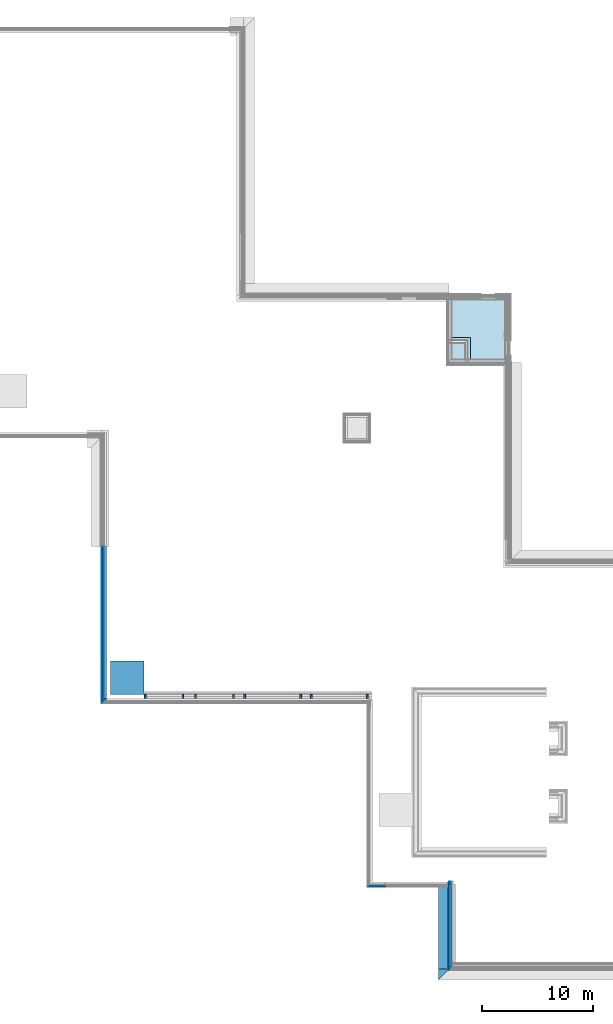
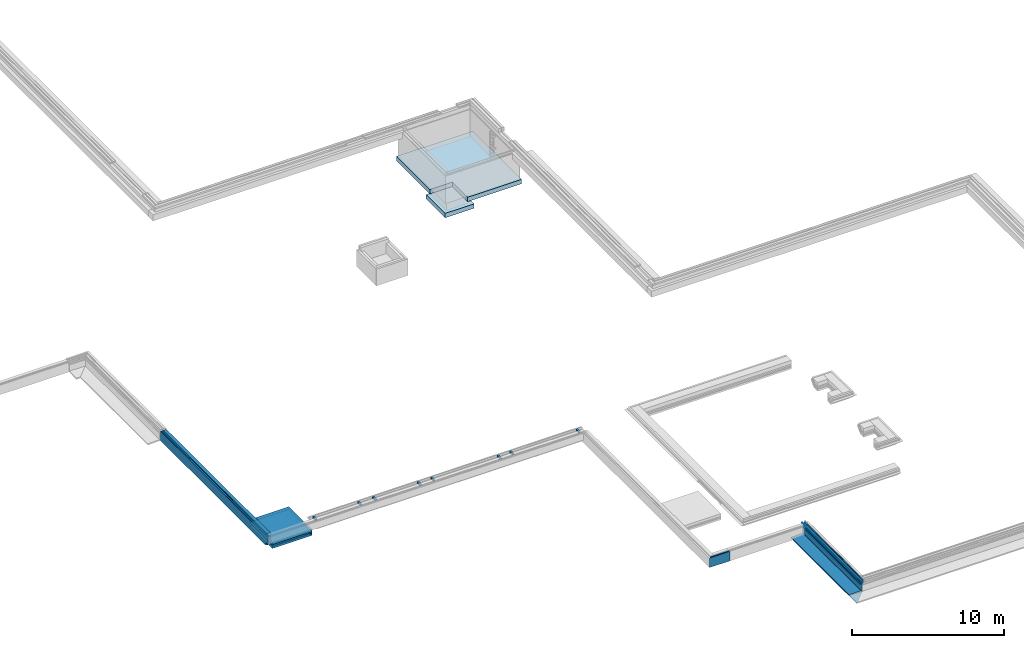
# One storey, part 1 of 17: 25 building element parts, 8 walls, 2 slabs, 5 elements without a shape of their own.
"""IFC2X3 building model written with IfcOpenShell, lengths in millimetres."""

from ifc_helpers import new_model, entity, si_unit, converted_unit, derived_unit, money_unit, direction, frame, origin_with_axes, place, context, subcontext, project, spatial, faceted_brep, material, type_object, element, aggregate, save


model = new_model("IFC2X3")

# Units and contexts
model_context = context("Model", 3, precision=0.01, world=origin_with_axes(), true_north=direction((0.0, 1.0)))
body_context = subcontext(model_context, "Body", "Model", "MODEL_VIEW")
ifc_project = project(units=[si_unit("LENGTHUNIT", "METRE", prefix="MILLI"), si_unit("AREAUNIT", "SQUARE_METRE"), si_unit("VOLUMEUNIT", "CUBIC_METRE"), converted_unit("PLANEANGLEUNIT", "DEGREE", entity("IfcPlaneAngleMeasure", 0.0174532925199), si_unit("PLANEANGLEUNIT", "RADIAN"), dimensions=[0, 0, 0, 0, 0, 0, 0]), money_unit("EUR"), converted_unit("TIMEUNIT", "Year", entity("IfcTimeMeasure", 31556926.0), si_unit("TIMEUNIT", "SECOND"), dimensions=[0, 0, 1, 0, 0, 0, 0]), si_unit("MASSUNIT", "GRAM", prefix="KILO"), si_unit("THERMODYNAMICTEMPERATUREUNIT", "DEGREE_CELSIUS"), si_unit("LUMINOUSINTENSITYUNIT", "LUMEN"), si_unit("ENERGYUNIT", "JOULE", prefix="MEGA"), derived_unit("THERMALCONDUCTANCEUNIT", [(si_unit("POWERUNIT", "WATT"), 1), (si_unit("LENGTHUNIT", "METRE"), -1), (si_unit("THERMODYNAMICTEMPERATUREUNIT", "KELVIN"), -1)]), derived_unit("SPECIFICHEATCAPACITYUNIT", [(si_unit("ENERGYUNIT", "JOULE"), 1), (si_unit("MASSUNIT", "GRAM", prefix="KILO"), -1), (si_unit("THERMODYNAMICTEMPERATUREUNIT", "KELVIN"), -1)]), derived_unit("MASSDENSITYUNIT", [(si_unit("MASSUNIT", "GRAM", prefix="KILO"), 1), (si_unit("VOLUMEUNIT", "CUBIC_METRE"), -1)])], contexts=[model_context])

# Site, building, storey
site_placement = place(None, origin_with_axes())
site = spatial("IfcSite", under=ifc_project, at=site_placement, Name="Kolde pst 67a", CompositionType="ELEMENT")
building_placement = place(site_placement, origin_with_axes())
building = spatial("IfcBuilding", under=site, at=building_placement, Name="Riigigümnaasium", CompositionType="ELEMENT")
storey_placement = place(building_placement, frame((0.0, 0.0, -1500.0), z_axis=(0.0, 0.0, 1.0), x_axis=(1.0, 0.0, 0.0)))
storey = spatial("IfcBuildingStorey", under=building, at=storey_placement, Name="Vundament", CompositionType="ELEMENT", Elevation=-1500.0)

# Slabs
ifc_material_1 = material(Name="_KANDETARIND - monoliitne raudbetoonplaat")
slab_type_1 = type_object("IfcSlabType", Name="_KANDETARIND - monoliitne raudbetoonplaat 350", PredefinedType="NOTDEFINED")
slab_1_placement = place(storey_placement, frame((54870.0567695, 60689.9808339, -1065.2), z_axis=(0.0, 0.0, 1.0), x_axis=(1.0, 0.0, 0.0)))
element("IfcSlab", 1, at=slab_1_placement, inside=storey, type_object=slab_type_1, material=ifc_material_1, Name="Põrand pinnasel", PredefinedType="NOTDEFINED", context=body_context, shape_type="Brep", body=[
    faceted_brep([(0.0, -4419.79043204, 0.0), (246.925306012, -4419.79043204, 0.0), (246.925306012, -4416.98077557, 0.0), (1699.95743312, -4416.98077557, 0.0), (1702.95743312, -4416.98077557, 0.0), (1702.95743312, -5919.98077557, 0.0), (1700.00000012, -5919.98077557, 0.0), (1700.00000012, -6419.98077559, 0.0), (5815.32964271, -6419.98077559, 0.0), (5815.32964271, -4422.98078845, 0.0), (5815.7673606, -4422.98078845, 0.0), (5815.7673606, 0.0, 0.0), (0.0, 0.0, 0.0), (0.0, -4419.79043204, -350.0), (246.925306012, -4419.79043204, -350.0), (246.925306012, -4416.98077557, -350.0), (1699.95743312, -4416.98077557, -350.0), (1702.95743312, -4416.98077557, -350.0), (1702.95743312, -5919.98077557, -350.0), (1700.00000012, -5919.98077557, -350.0), (1700.00000012, -6419.98077559, -350.0), (5815.32964271, -6419.98077559, -350.0), (5815.32964271, -4422.98078845, -350.0), (5815.7673606, -4422.98078845, -350.0), (5815.7673606, 0.0, -350.0), (0.0, 0.0, -350.0)], [[[0, 1, 2, 3, 4, 5, 6, 7, 8, 9, 10, 11, 12]], [[13, 14, 1, 0]], [[15, 2, 1, 14]], [[15, 16, 3, 2]], [[4, 3, 16, 17]], [[18, 5, 4, 17]], [[19, 6, 5, 18]], [[7, 6, 19, 20]], [[8, 7, 20, 21]], [[9, 8, 21, 22]], [[10, 9, 22, 23]], [[11, 10, 23, 24]], [[12, 11, 24, 25]], [[0, 12, 25, 13]], [[16, 15, 14, 13, 25, 24, 23, 22, 21, 20, 19, 18, 17]]]),
])
slab_2_placement = place(storey_placement, frame((54870.0142027, 54270.0, -1765.2), z_axis=(0.0, 0.0, 1.0), x_axis=(1.0, 0.0, 0.0)))
element("IfcSlab", 2, at=slab_2_placement, inside=storey, type_object=slab_type_1, material=ifc_material_1, Name="Põrand pinnasel", PredefinedType="NOTDEFINED", context=body_context, shape_type="Brep", body=[
    faceted_brep([(0.0, 0.0, 0.0), (0.0, 0.0, -350.0), (2198.17536675, 0.0, -350.0), (2198.17536675, 0.0, 0.0), (0.0, 2498.19638729, 0.0), (0.0, 2498.19638729, -350.0), (2198.17536675, 2498.19638729, -350.0), (2198.17536675, 2498.19638729, 0.0)], [[[0, 1, 2, 3]], [[4, 5, 1, 0]], [[2, 1, 5, 6]], [[3, 2, 6, 7]], [[4, 0, 3, 7]], [[7, 6, 5, 4]]]),
])

# Walls
ifc_material_2 = material(Name="_KANDETARIND - monteeritav raudbetoon vastavalt EK osale")
wall_type_1 = type_object("IfcWallType", Name="_KANDETARIND - monteeritav raudbetoon vastavalt EK osale 150", PredefinedType="NOTDEFINED")
wall_1_placement = place(storey_placement, frame((47677.00036, 24260.0041147, 1269.90000366), z_axis=(0.0, 0.0, 1.0), x_axis=(1.14108152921e-05, 0.999999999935, 0.0)))
element("IfcWall", 3, at=wall_1_placement, inside=storey, type_object=wall_type_1, material=ifc_material_2, Name="Vundament", context=body_context, shape_type="Brep", body=[
    faceted_brep([(339.69805621, -150.0, 0.0), (339.69805621, -150.0, 130.000015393), (340.266281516, -150.0, 130.000015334), (340.266281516, -150.0, 130.099996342), (0.0, -150.0, 130.099996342), (0.0, -150.0, 0.0), (339.696344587, 0.0, 0.0), (339.696344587, 0.0, 130.000015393), (340.266281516, 0.0, 130.000015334), (340.266281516, 0.0, 130.099996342), (0.0, 0.0, 130.099996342), (0.0, 0.0, 0.0)], [[[0, 1, 2, 3, 4, 5]], [[6, 7, 1, 0]], [[7, 8, 2, 1]], [[3, 2, 8, 9]], [[10, 4, 3, 9]], [[11, 5, 4, 10]], [[11, 6, 0, 5]], [[8, 7, 6, 11, 10, 9]]]),
])
wall_2_placement = place(storey_placement, frame((31207.007678, 24600.2703962, 1269.90000366), z_axis=(0.0, 0.0, 1.0), x_axis=(0.0, -1.0, 0.0)))
element("IfcWall", 4, at=wall_2_placement, inside=storey, type_object=wall_type_1, material=ifc_material_2, Name="Vundament", context=body_context, shape_type="Brep", body=[
    faceted_brep([(0.569936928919, 0.0, 0.0), (0.569936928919, 0.0, 130.000015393), (0.0, 0.0, 130.000015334), (0.0, 0.0, 130.099996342), (350.332839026, 0.0, 130.099996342), (350.332839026, 0.0, 0.0), (0.569936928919, -150.0, 0.0), (0.569936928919, -150.0, 130.000015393), (0.0, -150.0, 130.000015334), (0.0, -150.0, 130.099996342), (350.331127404, -150.0, 130.099996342), (350.331127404, -150.0, 0.0)], [[[0, 1, 2, 3, 4, 5]], [[6, 7, 1, 0]], [[7, 8, 2, 1]], [[3, 2, 8, 9]], [[9, 10, 4, 3]], [[5, 4, 10, 11]], [[11, 6, 0, 5]], [[8, 7, 6, 11, 10, 9]]]),
])
wall_3_placement = place(storey_placement, frame((32192.9978809, 24600.2703962, 1269.90000366), z_axis=(0.0, 0.0, 1.0), x_axis=(0.0, -1.0, 0.0)))
element("IfcWall", 5, at=wall_3_placement, inside=storey, type_object=wall_type_1, material=ifc_material_2, Name="Vundament", context=body_context, shape_type="Brep", body=[
    faceted_brep([(0.569936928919, 150.0, 0.0), (0.569936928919, 150.0, 130.000015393), (0.0, 150.0, 130.000015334), (0.0, 150.0, 130.099996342), (350.345801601, 150.0, 130.099996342), (350.345801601, 150.0, 0.0), (0.569936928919, 0.0, 0.0), (0.569936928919, 0.0, 130.000015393), (0.0, 0.0, 130.000015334), (0.0, 0.0, 130.099996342), (350.344089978, 0.0, 130.099996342), (350.344089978, 0.0, 0.0)], [[[0, 1, 2, 3, 4, 5]], [[6, 7, 1, 0]], [[7, 8, 2, 1]], [[3, 2, 8, 9]], [[9, 10, 4, 3]], [[10, 11, 5, 4]], [[11, 6, 0, 5]], [[8, 7, 6, 11, 10, 9]]]),
])
wall_4_placement = place(storey_placement, frame((36622.9943314, 24600.2703962, 1269.90000366), z_axis=(0.0, 0.0, 1.0), x_axis=(0.0, -1.0, 0.0)))
element("IfcWall", 6, at=wall_4_placement, inside=storey, type_object=wall_type_1, material=ifc_material_2, Name="Vundament", context=body_context, shape_type="Brep", body=[
    faceted_brep([(0.569936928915, 150.0, 0.0), (0.569936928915, 150.0, 130.000015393), (0.0, 150.0, 130.000015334), (0.0, 150.0, 130.099996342), (350.396351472, 150.0, 130.099996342), (350.396351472, 150.0, 0.0), (0.569936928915, 0.0, 0.0), (0.569936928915, 0.0, 130.000015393), (0.0, 0.0, 130.000015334), (0.0, 0.0, 130.099996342), (350.394639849, 0.0, 130.099996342), (350.394639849, 0.0, 0.0)], [[[0, 1, 2, 3, 4, 5]], [[6, 7, 1, 0]], [[7, 8, 2, 1]], [[3, 2, 8, 9]], [[9, 10, 4, 3]], [[10, 11, 5, 4]], [[11, 6, 0, 5]], [[8, 7, 6, 11, 10, 9]]]),
])
wall_5_placement = place(storey_placement, frame((42620.9943314, 24600.2703962, 1269.90000366), z_axis=(0.0, 0.0, 1.0), x_axis=(0.0, -1.0, 0.0)))
element("IfcWall", 7, at=wall_5_placement, inside=storey, type_object=wall_type_1, material=ifc_material_2, Name="Vundament", context=body_context, shape_type="Brep", body=[
    faceted_brep([(0.569936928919, 150.0, 0.0), (0.569936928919, 150.0, 130.000015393), (0.0, 150.0, 130.000015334), (0.0, 150.0, 130.099996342), (350.464793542, 150.0, 130.099996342), (350.464793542, 150.0, 0.0), (0.569936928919, 0.0, 0.0), (0.569936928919, 0.0, 130.000015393), (0.0, 0.0, 130.000015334), (0.0, 0.0, 130.099996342), (350.463081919, 0.0, 130.099996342), (350.463081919, 0.0, 0.0)], [[[0, 1, 2, 3, 4, 5]], [[6, 7, 1, 0]], [[7, 8, 2, 1]], [[3, 2, 8, 9]], [[9, 10, 4, 3]], [[10, 11, 5, 4]], [[11, 6, 0, 5]], [[8, 7, 6, 11, 10, 9]]]),
])
wall_6_placement = place(storey_placement, frame((41827.0041286, 24600.2703962, 1269.90000366), z_axis=(0.0, 0.0, 1.0), x_axis=(0.0, -1.0, 0.0)))
element("IfcWall", 8, at=wall_6_placement, inside=storey, type_object=wall_type_1, material=ifc_material_2, Name="Vundament", context=body_context, shape_type="Brep", body=[
    faceted_brep([(0.569936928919, 0.0, 0.0), (0.569936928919, 0.0, 130.000015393), (0.0, 0.0, 130.000015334), (0.0, 0.0, 130.099996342), (350.454021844, 0.0, 130.099996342), (350.454021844, 0.0, 0.0), (0.569936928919, -150.0, 0.0), (0.569936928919, -150.0, 130.000015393), (0.0, -150.0, 130.000015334), (0.0, -150.0, 130.099996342), (350.452310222, -150.0, 130.099996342), (350.452310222, -150.0, 0.0)], [[[0, 1, 2, 3, 4, 5]], [[6, 7, 1, 0]], [[7, 8, 2, 1]], [[3, 2, 8, 9]], [[9, 10, 4, 3]], [[5, 4, 10, 11]], [[11, 6, 0, 5]], [[8, 7, 6, 11, 10, 9]]]),
])
wall_7_placement = place(storey_placement, frame((35757.0041286, 24600.2703962, 1269.90000366), z_axis=(0.0, 0.0, 1.0), x_axis=(0.0, -1.0, 0.0)))
element("IfcWall", 9, at=wall_7_placement, inside=storey, type_object=wall_type_1, material=ifc_material_2, Name="Vundament", context=body_context, shape_type="Brep", body=[
    faceted_brep([(0.569936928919, 0.0, 0.0), (0.569936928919, 0.0, 130.000015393), (0.0, 0.0, 130.000015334), (0.0, 0.0, 130.099996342), (350.384758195, 0.0, 130.099996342), (350.384758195, 0.0, 0.0), (0.569936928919, -150.0, 0.0), (0.569936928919, -150.0, 130.000015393), (0.0, -150.0, 130.000015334), (0.0, -150.0, 130.099996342), (350.383046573, -150.0, 130.099996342), (350.383046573, -150.0, 0.0)], [[[0, 1, 2, 3, 4, 5]], [[6, 7, 1, 0]], [[7, 8, 2, 1]], [[3, 2, 8, 9]], [[9, 10, 4, 3]], [[5, 4, 10, 11]], [[11, 6, 0, 5]], [[8, 7, 6, 11, 10, 9]]]),
])
wall_8_placement = place(storey_placement, frame((27797.8323503, 24600.2703962, 1269.90000366), z_axis=(0.0, 0.0, 1.0), x_axis=(0.0, -1.0, 0.0)))
element("IfcWall", 10, at=wall_8_placement, inside=storey, type_object=wall_type_1, material=ifc_material_2, Name="Vundament", context=body_context, shape_type="Brep", body=[
    faceted_brep([(0.569936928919, 0.0, 0.0), (0.569936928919, 0.0, 130.000015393), (0.0, 0.0, 130.000015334), (0.0, 0.0, 130.099996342), (350.293937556, 0.0, 130.099996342), (350.293937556, 0.0, 0.0), (0.569936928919, -150.0, 0.0), (0.569936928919, -150.0, 130.000015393), (0.0, -150.0, 130.000015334), (0.0, -150.0, 130.099996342), (350.292225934, -150.0, 130.099996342), (350.292225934, -150.0, 0.0)], [[[0, 1, 2, 3, 4, 5]], [[6, 7, 1, 0]], [[7, 8, 2, 1]], [[3, 2, 8, 9]], [[9, 10, 4, 3]], [[5, 4, 10, 11]], [[11, 6, 0, 5]], [[8, 7, 6, 11, 10, 9]]]),
])

# Wall, building element parts
wall_type_2 = type_object("IfcWallType", Name="Lintvundament 1602 x 765", PredefinedType="NOTDEFINED")
wall_9_placement = place(storey_placement, frame((55370.0096858, 40.0, 1479.99999851), z_axis=(0.0, 0.0, 1.0), x_axis=(-3.74232799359e-06, 0.999999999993, 0.0)))
wall_9 = element("IfcWall", 11, at=wall_9_placement, inside=storey, type_object=wall_type_2, Name="Vundament")
ifc_material_3 = material(Name="_SOOJUSTUS - vahtpolüstüreenplaadid EPS 120 Perimeeter, survetugevus min 120kPa, veeimavus <2%, soojuserijuhtivus λD<0,036 W/(mK)")
building_element_part_1_placement = place(wall_9_placement, origin_with_axes())
building_element_part_1 = element("IfcBuildingElementPart", 12, at=building_element_part_1_placement, material=ifc_material_3, Name="_SOOJUSTUS - vahtpolüstüreenplaadid EPS 120 Perimeeter, survetugevus min 120kPa, veeimavus <2%, soojuserijuhtivus λD<0,036 W/(mK)", context=body_context, shape_type="Brep", body=[
    faceted_brep([(-203.056684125, 203.057444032, -629.93015656), (7459.92109252, 203.057444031, -629.93015656), (7459.92109252, 313.057436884, -633.771447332), (-203.056272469, 313.057436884, -633.771447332), (-203.056684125, 203.057444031, -729.999997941), (7459.92109252, 203.057444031, -729.999997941), (7459.92109252, 1202.46588158, -664.830269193), (7459.92109252, 1198.97593138, -764.769370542), (-203.052944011, 1202.46588158, -664.830278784), (-203.052952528, 1200.19010474, -729.999997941), (-1198.97144442, 1198.97593138, -764.769370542)], [[[0, 1, 2, 3]], [[0, 4, 5, 1]], [[6, 2, 1, 5, 7]], [[6, 8, 3, 2]], [[0, 3, 8, 9, 4]], [[7, 5, 4, 10]], [[9, 8, 6, 7, 10]], [[9, 10, 4]]]),
])
ifc_material_4 = material(Name="_ALUSKATE - drenaaži- ja kaitsematt geotekstiiliga soojustuse kaitseks, Interplast Iso-Drain 8 Geo või samaväärne")
building_element_part_2_placement = place(wall_9_placement, origin_with_axes())
building_element_part_2 = element("IfcBuildingElementPart", 13, at=building_element_part_2_placement, material=ifc_material_4, Name="_ALUSKATE - drenaaži- ja kaitsematt geotekstiiliga soojustuse kaitseks, Interplast Iso-Drain 8 Geo või samaväärne", context=body_context, shape_type="Brep", body=[
    faceted_brep([(-234.999076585, 245.000004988, -29.9999946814), (-234.999114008, 234.999993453, -29.9999946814), (7459.92109252, 234.999993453, -29.9999946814), (7459.92109252, 245.000004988, -29.9999946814), (-234.999114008, 234.999993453, -146.999992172), (-234.999076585, 245.000004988, -137.030584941), (-234.998821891, 313.057436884, -137.03058481), (-234.998821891, 313.057436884, -146.999992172), (-234.998859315, 303.057440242, -146.999992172), (7459.92109252, 234.999993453, -146.999992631), (7459.92109252, 303.057440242, -146.999992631), (7459.92109252, 303.057440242, -633.422236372), (7459.92109252, 313.057436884, -633.771447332), (7459.92109252, 313.057436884, -137.030570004), (7459.92109252, 245.000004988, -137.030570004), (-313.056265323, 313.057436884, -633.771447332), (-303.056392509, 313.057436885, -633.422240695), (-303.05626868, 313.057436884, -629.93015656), (-303.056268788, 313.057436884, -146.999999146), (-303.056306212, 303.057440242, -146.999999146), (-303.056306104, 303.057440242, -629.93015656), (-303.056429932, 303.057440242, -633.422240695)], [[[0, 1, 2, 3]], [[4, 1, 0, 5, 6, 7, 8]], [[1, 4, 9, 2]], [[3, 2, 9, 10, 11, 12, 13, 14]], [[5, 0, 3, 14]], [[6, 5, 14, 13]], [[7, 6, 13, 12, 15, 16, 17, 18]], [[19, 8, 7, 18]], [[4, 8, 10, 9]], [[8, 19, 20, 21, 11, 10]], [[21, 15, 12, 11]], [[21, 16, 15]], [[16, 21, 20, 17]], [[19, 18, 17, 20]]]),
])
building_element_part_3_placement = place(wall_9_placement, origin_with_axes())
building_element_part_3 = element("IfcBuildingElementPart", 14, at=building_element_part_3_placement, material=ifc_material_3, Name="_SOOJUSTUS - vahtpolüstüreenplaadid EPS 120 Perimeeter, survetugevus min 120kPa, veeimavus <2%, soojuserijuhtivus λD<0,036 W/(mK)", context=body_context, shape_type="Brep", body=[
    faceted_brep([(-203.056309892, 303.057446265, -246.99999851), (-203.056684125, 203.057444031, -246.99999851), (7459.92109252, 203.057444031, -246.99999851), (7459.92109252, 303.057446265, -246.99999851), (-203.056684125, 203.057444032, -629.930162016), (-203.056309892, 303.057446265, -629.930162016), (7459.92109252, 203.057444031, -629.930162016), (7459.92109252, 303.057446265, -633.422240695), (-303.056312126, 303.057446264, -633.422240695)], [[[0, 1, 2, 3]], [[4, 1, 0, 5]], [[1, 4, 6, 2]], [[2, 6, 7, 3]], [[5, 0, 3, 7, 8]], [[4, 5, 8]], [[7, 6, 4, 8]]]),
])
ifc_material_5 = material(Name="_HÜDROISOLATSIOON - tsemendil baseeruv ühekomponentne hüdroisolatsioon hüdroisoleerimiseks sokli krohvi pealt, ülevärvitud silikoonvaikvärviga sokli krohvi tooni, Weber.tec 824 ja Weber.ton 411 AquaBalance toon CL444 (S 3502-Y) * 35 või samaväärne")
building_element_part_4_placement = place(wall_9_placement, origin_with_axes())
building_element_part_4 = element("IfcBuildingElementPart", 15, at=building_element_part_4_placement, material=ifc_material_5, Name="_HÜDROISOLATSIOON - tsemendil baseeruv ühekomponentne hüdroisolatsioon hüdroisoleerimiseks sokli krohvi pealt, ülevärvitud silikoonvaikvärviga sokli krohvi tooni, Weber.tec 824 ja Weber.ton 411 AquaBalance toon CL444 (S 3502-Y) * 35 või samaväärne", context=body_context, shape_type="Brep", body=[
    faceted_brep([(-232.999123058, 234.99999634, -30.0000036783), (-232.999130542, 233.000002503, -30.0000036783), (7459.92109252, 233.000002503, -30.0000036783), (7459.92109252, 234.99999634, -29.9999946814), (-232.999130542, 233.000002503, -147.000002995), (-232.999123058, 234.99999634, -147.000002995), (7459.92109252, 233.000002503, -147.000002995), (7459.92109252, 234.99999634, -146.999993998)], [[[0, 1, 2, 3]], [[4, 1, 0, 5]], [[1, 4, 6, 2]], [[7, 3, 2, 6]], [[5, 0, 3, 7]], [[4, 5, 7, 6]]]),
])
ifc_material_6 = material(Name="_TUULETÕKE - sokli krohv, silikoonvaikkrohv Weber.pas 481 AquaBalance 1mm \"scratch\" viimistlus, toon helehall CL444 (S 3502-Y) * 35, SILS süsteem, või samaväärne")
building_element_part_5_placement = place(wall_9_placement, origin_with_axes())
building_element_part_5 = element("IfcBuildingElementPart", 16, at=building_element_part_5_placement, material=ifc_material_6, Name="_TUULETÕKE - sokli krohv, silikoonvaikkrohv Weber.pas 481 AquaBalance 1mm \"scratch\" viimistlus, toon helehall CL444 (S 3502-Y) * 35, SILS süsteem, või samaväärne", context=body_context, shape_type="Brep", body=[
    faceted_brep([(-222.999129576, 233.000001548, -1.37334278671e-06), (-222.999166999, 223.000001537, -1.37334278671e-06), (7459.92109252, 223.000001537, -1.37334282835e-06), (7459.92109252, 233.000001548, -1.37334282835e-06), (-222.999129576, 233.000002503, -30.0000036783), (-222.999129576, 233.000001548, -146.999999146), (-222.999166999, 223.000001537, -146.999999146), (7459.92109252, 223.000001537, -146.999999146), (7459.92109252, 233.000001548, -146.999999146), (7459.92109252, 233.000002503, -30.0000036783)], [[[0, 1, 2, 3]], [[1, 0, 4, 5, 6]], [[1, 6, 7, 2]], [[8, 9, 3, 2, 7]], [[4, 0, 3, 9]], [[8, 5, 4, 9]], [[7, 6, 5, 8]]]),
])
ifc_material_7 = material(Name="_HÜDROISOLATSIOON - Bituumenvõõp COMBIFLEX-EL vastavalt TL2 nõuetele")
building_element_part_6_placement = place(wall_9_placement, origin_with_axes())
building_element_part_6 = element("IfcBuildingElementPart", 17, at=building_element_part_6_placement, material=ifc_material_7, Name="_HÜDROISOLATSIOON - Bituumenvõõp COMBIFLEX-EL vastavalt TL2 nõuetele", context=body_context, shape_type="Brep", body=[
    faceted_brep([(1.12269816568e-05, 2.99999783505, 8.81641959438e-06), (0.0, 0.0, 8.81641959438e-06), (7459.92109252, 0.0, 8.81641959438e-06), (7459.92109252, 2.99999783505, -2.35946218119e-06), (1.12269816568e-05, 2.99999783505, -247.000001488), (0.000759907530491, 203.057435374, -247.000001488), (0.000759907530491, 203.057435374, -250.000008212), (0.000748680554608, 200.057437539, -250.000008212), (0.0, 0.0, -250.000008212), (7459.92109252, 0.0, -250.000008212), (7459.92109252, 203.057435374, -750.000008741), (7459.92109252, 203.057435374, -729.999997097), (7459.92109252, 203.057435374, -246.999999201), (7459.92109252, 2.99999783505, -246.999999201), (7459.92109252, 200.057437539, -250.000008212), (7459.92109252, 200.057437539, -750.000008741), (-200.056677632, 203.057435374, -250.000008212), (-200.056677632, 203.057435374, -729.999995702), (-200.056688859, 200.057437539, -250.000008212), (-200.056677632, 203.057435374, -750.000008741), (-200.056688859, 200.057437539, -750.000008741)], [[[0, 1, 2, 3]], [[1, 0, 4, 5, 6, 7, 8]], [[1, 8, 9, 2]], [[10, 11, 12, 13, 3, 2, 9, 14, 15]], [[0, 3, 13, 4]], [[12, 5, 4, 13]], [[16, 6, 5, 12, 11, 17]], [[16, 18, 7, 6]], [[9, 8, 7, 14]], [[10, 19, 17, 11]], [[15, 14, 7, 18, 20]], [[15, 20, 19, 10]], [[17, 19, 20, 18, 16]]]),
])
building_element_part_7_placement = place(wall_9_placement, origin_with_axes())
building_element_part_7 = element("IfcBuildingElementPart", 18, at=building_element_part_7_placement, material=ifc_material_3, Name="_SOOJUSTUS - vahtpolüstüreenplaadid EPS 120 Perimeeter, survetugevus min 120kPa, veeimavus <2%, soojuserijuhtivus λD<0,036 W/(mK)", context=body_context, shape_type="Brep", body=[
    faceted_brep([(-2.99886827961, 303.057446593, -146.99999851), (-2.99999119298, 3.00000241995, -146.99999851), (7459.92109252, 3.00000241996, -146.99999851), (7459.92109252, 303.057446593, -146.99999851), (-2.99999119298, 3.00000241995, -247.000001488), (-2.99886827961, 303.057446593, -247.000001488), (7459.92109252, 3.00000241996, -247.000001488), (7459.92109252, 303.057446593, -247.000001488)], [[[0, 1, 2, 3]], [[4, 1, 0, 5]], [[1, 4, 6, 2]], [[6, 7, 3, 2]], [[5, 0, 3, 7]], [[4, 5, 7, 6]]]),
])
building_element_part_8_placement = place(wall_9_placement, origin_with_axes())
building_element_part_8 = element("IfcBuildingElementPart", 19, at=building_element_part_8_placement, material=ifc_material_3, Name="_SOOJUSTUS - vahtpolüstüreenplaadid EPS 120 Perimeeter, survetugevus min 120kPa, veeimavus <2%, soojuserijuhtivus λD<0,036 W/(mK)", context=body_context, shape_type="Brep", body=[
    faceted_brep([(-72.9991668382, 223.000000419, -2.23078100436e-06), (-72.9997281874, 73.0000013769, -2.23078100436e-06), (7459.92109252, 73.0000013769, -2.23078100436e-06), (7459.92109252, 223.000000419, -2.23078100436e-06), (-72.9991668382, 223.000000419, -146.999999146), (-72.9997281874, 73.0000013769, -146.999999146), (7459.92109252, 73.0000013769, -146.999999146), (7459.92109252, 223.000000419, -146.999999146)], [[[0, 1, 2, 3]], [[1, 0, 4, 5]], [[1, 5, 6, 2]], [[3, 2, 6, 7]], [[0, 3, 7, 4]], [[7, 6, 5, 4]]]),
])
ifc_material_8 = material(Name="_SOOJUSTUS - ekstrudeeritud polüstüreenist plaadid XPS 250, survetugevus min 250kPa, soojuserijuhtivus λD<0,036 W/(mK), veeimavus alla 0,2%, näiteks XPS 250 foam SL või samaväärne")
building_element_part_9_placement = place(wall_9_placement, origin_with_axes())
building_element_part_9 = element("IfcBuildingElementPart", 20, at=building_element_part_9_placement, material=ifc_material_8, Name="_SOOJUSTUS - ekstrudeeritud polüstüreenist plaadid XPS 250, survetugevus min 250kPa, soojuserijuhtivus λD<0,036 W/(mK), veeimavus alla 0,2%, näiteks XPS 250 foam SL või samaväärne", context=body_context, shape_type="Brep", body=[
    faceted_brep([(-2.99972923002, 73.0000017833, -3.76120343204e-06), (-2.99999119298, 3.00000241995, -3.76120343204e-06), (7459.92109252, 3.00000241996, -3.7612034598e-06), (7459.92109252, 73.0000017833, -3.7612034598e-06), (-2.99972923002, 73.0000017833, -146.999999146), (-2.99999119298, 3.00000241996, -146.999999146), (7459.92109252, 3.00000241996, -146.999999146), (7459.92109252, 73.0000017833, -146.999999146)], [[[0, 1, 2, 3]], [[1, 0, 4, 5]], [[1, 5, 6, 2]], [[2, 6, 7, 3]], [[0, 3, 7, 4]], [[4, 7, 6, 5]]]),
])
aggregate(wall_9, [building_element_part_1, building_element_part_2, building_element_part_3, building_element_part_4, building_element_part_5, building_element_part_6, building_element_part_7, building_element_part_8, building_element_part_9])

# Slab, building element parts
slab_type_2 = type_object("IfcSlabType", Name="PP-RBM-20/1_EPS 100+ betoon, mullakast 500", PredefinedType="NOTDEFINED")
slab_3_placement = place(storey_placement, frame((24587.0567695, 24590.0, 390.0), z_axis=(0.0, 0.0, 1.0), x_axis=(1.0, 0.0, 0.0)))
slab_3 = element("IfcSlab", 21, at=slab_3_placement, inside=storey, type_object=slab_type_2, Name="Taimekast", PredefinedType="NOTDEFINED")
ifc_material_9 = material(Name="_PEALEVALUKIHT - raudbetoonplaat vastavalt EK osale, kalle trapi suunas 1:80")
building_element_part_10_placement = place(slab_3_placement, origin_with_axes())
building_element_part_10 = element("IfcBuildingElementPart", 22, at=building_element_part_10_placement, material=ifc_material_9, Name="_PEALEVALUKIHT - raudbetoonplaat vastavalt EK osale, kalle trapi suunas 1:80", context=body_context, shape_type="Brep", body=[
    faceted_brep([(3006.0, 0.0, -200.0), (3006.0, 0.0, 0.0), (0.0, 0.0, 0.0), (0.0, 0.0, -200.0), (3006.0, 3003.0, -200.0), (3006.0, 3003.0, 0.0), (0.0, 3003.0, 0.0), (0.0, 3003.0, -200.0)], [[[0, 1, 2, 3]], [[4, 5, 1, 0]], [[2, 1, 5, 6]], [[3, 2, 6, 7]], [[3, 7, 4, 0]], [[7, 6, 5, 4]]]),
])
ifc_material_10 = material(Name="_HÜDROISOLATSIOON/RADOONITÕKE - eelpaigaldatav elastne hüdroisolatsioonimembraan, värske betooniga nakkuv, radoonitihe, WFP Pre-Tec Membrane Plus või samaväärne")
building_element_part_11_placement = place(slab_3_placement, origin_with_axes())
building_element_part_11 = element("IfcBuildingElementPart", 23, at=building_element_part_11_placement, material=ifc_material_10, Name="_HÜDROISOLATSIOON/RADOONITÕKE - eelpaigaldatav elastne hüdroisolatsioonimembraan, värske betooniga nakkuv, radoonitihe, WFP Pre-Tec Membrane Plus või samaväärne", context=body_context, shape_type="Brep", body=[
    faceted_brep([(3006.0, 0.0, -200.1), (3006.0, 0.0, -200.0), (0.0, 0.0, -200.0), (0.0, 0.0, -200.1), (3006.0, 3003.0, -200.1), (3006.0, 3003.0, -200.0), (0.0, 3003.0, -200.0), (0.0, 3003.0, -200.1)], [[[0, 1, 2, 3]], [[4, 5, 1, 0]], [[2, 1, 5, 6]], [[3, 2, 6, 7]], [[3, 7, 4, 0]], [[7, 6, 5, 4]]]),
])
building_element_part_12_placement = place(slab_3_placement, origin_with_axes())
building_element_part_12 = element("IfcBuildingElementPart", 24, at=building_element_part_12_placement, material=ifc_material_3, Name="_SOOJUSTUS - vahtpolüstüreenplaadid EPS 120 Perimeeter, survetugevus min 120kPa, veeimavus <2%, soojuserijuhtivus λD<0,036 W/(mK)", context=body_context, shape_type="Brep", body=[
    faceted_brep([(3006.0, 0.0, -300.1), (3006.0, 0.0, -200.1), (0.0, 0.0, -200.1), (0.0, 0.0, -300.1), (3006.0, 3003.0, -300.1), (3006.0, 3003.0, -200.1), (0.0, 3003.0, -200.1), (0.0, 3003.0, -300.1)], [[[0, 1, 2, 3]], [[4, 5, 1, 0]], [[2, 1, 5, 6]], [[3, 2, 6, 7]], [[3, 7, 4, 0]], [[7, 6, 5, 4]]]),
])
ifc_material_11 = material(Name="_TÄIDE - tasandus-/tugevduskiht, pinnasesse tambitud killustik E=80MPa, kiilutud fr 4/16")
building_element_part_13_placement = place(slab_3_placement, origin_with_axes())
building_element_part_13 = element("IfcBuildingElementPart", 25, at=building_element_part_13_placement, material=ifc_material_11, Name="_TÄIDE - tasandus-/tugevduskiht, pinnasesse tambitud killustik E=80MPa, kiilutud fr 4/16", context=body_context, shape_type="Brep", body=[
    faceted_brep([(3006.0, 0.0, -350.1), (3006.0, 0.0, -300.1), (0.0, 0.0, -300.1), (0.0, 0.0, -350.1), (3006.0, 3003.0, -350.1), (3006.0, 3003.0, -300.1), (0.0, 3003.0, -300.1), (0.0, 3003.0, -350.1)], [[[0, 1, 2, 3]], [[4, 5, 1, 0]], [[2, 1, 5, 6]], [[3, 2, 6, 7]], [[3, 7, 4, 0]], [[7, 6, 5, 4]]]),
])
ifc_material_12 = material(Name="_TÄIDE - tasandus-/tugevduskiht, pinnasesse tambitud killustik E=80MPa, fr 16/32")
building_element_part_14_placement = place(slab_3_placement, origin_with_axes())
building_element_part_14 = element("IfcBuildingElementPart", 26, at=building_element_part_14_placement, material=ifc_material_12, Name="_TÄIDE - tasandus-/tugevduskiht, pinnasesse tambitud killustik E=80MPa, fr 16/32", context=body_context, shape_type="Brep", body=[
    faceted_brep([(3006.0, 0.0, -500.1), (3006.0, 0.0, -350.1), (0.0, 0.0, -350.1), (0.0, 0.0, -500.1), (3006.0, 3003.0, -500.1), (3006.0, 3003.0, -350.1), (0.0, 3003.0, -350.1), (0.0, 3003.0, -500.1)], [[[0, 1, 2, 3]], [[4, 5, 1, 0]], [[2, 1, 5, 6]], [[3, 2, 6, 7]], [[3, 7, 4, 0]], [[7, 6, 5, 4]]]),
])
ifc_material_13 = material(Name="_PINNAS - tihendatud mineraalne tagasitäide või olemasolev pinnas, tihendusaste 92%, Emax/E1 <2.8 (vastavalt MaaRYL2010 klassile 2)")
building_element_part_15_placement = place(slab_3_placement, origin_with_axes())
building_element_part_15 = element("IfcBuildingElementPart", 27, at=building_element_part_15_placement, material=ifc_material_13, Name="_PINNAS - tihendatud mineraalne tagasitäide või olemasolev pinnas, tihendusaste 92%, Emax/E1 <2.8 (vastavalt MaaRYL2010 klassile 2)", context=body_context, shape_type="Brep", body=[
    faceted_brep([(0.0, 0.0, -500.2), (3006.0, 0.0, -500.2), (3006.0, 0.0, -500.1), (0.0, 0.0, -500.1), (0.0, 3003.0, -500.2), (3006.0, 3003.0, -500.2), (3006.0, 3003.0, -500.1), (0.0, 3003.0, -500.1)], [[[0, 1, 2, 3]], [[0, 4, 5, 1]], [[1, 5, 6, 2]], [[3, 2, 6, 7]], [[4, 0, 3, 7]], [[5, 4, 7, 6]]]),
])
aggregate(slab_3, [building_element_part_10, building_element_part_11, building_element_part_12, building_element_part_13, building_element_part_14, building_element_part_15])

# Wall, building element parts
wall_type_3 = type_object("IfcWallType", Name="VS-RB-25/3_lintvundament klaasfassaad 433", PredefinedType="NOTDEFINED")
wall_10_placement = place(storey_placement, frame((48079.7969495, 7520.00427942, 729.9), z_axis=(0.0, 0.0, 1.0), x_axis=(0.999999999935, -1.14108152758e-05, 0.0)))
wall_10 = element("IfcWall", 28, at=wall_10_placement, inside=storey, type_object=wall_type_3, Name="Vundament")
building_element_part_16_placement = place(wall_10_placement, origin_with_axes())
building_element_part_16 = element("IfcBuildingElementPart", 29, at=building_element_part_16_placement, material=ifc_material_3, Name="_SOOJUSTUS - vahtpolüstüreenplaadid EPS 120 Perimeeter, survetugevus min 120kPa, veeimavus <2%, soojuserijuhtivus λD<0,036 W/(mK)", context=body_context, shape_type="Brep", body=[
    faceted_brep([(1291.75425587, -153.0, 0.0), (1291.75425587, -253.0, 0.0), (-153.0, -253.0, 0.0), (-153.0, -153.0, 0.0), (1291.75425587, -153.0, 770.0), (1291.75425587, -253.0, 770.0), (-153.0, -253.0, 770.0), (-153.0, -153.0, 770.0)], [[[0, 1, 2, 3]], [[0, 4, 5, 1]], [[1, 5, 6, 2]], [[3, 2, 6, 7]], [[4, 0, 3, 7]], [[5, 4, 7, 6]]]),
])
building_element_part_17_placement = place(wall_10_placement, origin_with_axes())
building_element_part_17 = element("IfcBuildingElementPart", 30, at=building_element_part_17_placement, material=ifc_material_6, Name="_TUULETÕKE - sokli krohv, silikoonvaikkrohv Weber.pas 481 AquaBalance 1mm \"scratch\" viimistlus, toon helehall CL444 (S 3502-Y) * 35, SILS süsteem, või samaväärne", context=body_context, shape_type="Brep", body=[
    faceted_brep([(1291.75425587, -253.0, 0.0), (1291.75425587, -263.0, 0.0), (-253.0, -263.0, 0.0), (-253.0, -253.0, 0.0), (1291.75425587, -253.0, 770.0), (1291.75425587, -263.0, 770.0), (-253.0, -263.0, 770.0), (-253.0, -253.0, 770.0)], [[[0, 1, 2, 3]], [[0, 4, 5, 1]], [[1, 5, 6, 2]], [[3, 2, 6, 7]], [[4, 0, 3, 7]], [[5, 4, 7, 6]]]),
])
aggregate(wall_10, [building_element_part_16, building_element_part_17])

wall_11_placement = place(storey_placement, frame((24070.0027342, 37950.4966262, 729.899991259), z_axis=(0.0, 0.0, 1.0), x_axis=(0.0, -1.0, 0.0)))
wall_11 = element("IfcWall", 31, at=wall_11_placement, inside=storey, type_object=wall_type_3, Name="Vundament")
ifc_material_14 = material(Name="_KANDETARIND - monoliitne raudbetoon vastavalt EK osale")
building_element_part_18_placement = place(wall_11_placement, origin_with_axes())
building_element_part_18 = element("IfcBuildingElementPart", 32, at=building_element_part_18_placement, material=ifc_material_14, Name="_KANDETARIND - monoliitne raudbetoon vastavalt EK osale", context=body_context, shape_type="Brep", body=[
    faceted_brep([(13700.4767172, -80.0, 770.000008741), (13700.4795699, 170.0, 770.000008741), (0.0, 170.0, 770.0), (0.0, -80.0, 770.0), (13700.4795699, 170.0, 220.000033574), (13700.4767172, -79.9999979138, 220.000033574), (13870.47763, 170.0, 220.000033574), (13870.47763, 170.0, 0.0), (0.0, 170.0, 0.0), (0.0, -80.0, 0.0), (13870.47763, -79.9999979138, 0.0), (13870.47763, -79.9999979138, 220.000033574)], [[[0, 1, 2, 3]], [[4, 1, 0, 5]], [[4, 6, 7, 8, 2, 1]], [[3, 2, 8, 9]], [[5, 0, 3, 9, 10, 11]], [[6, 4, 5, 11]], [[6, 11, 10, 7]], [[8, 7, 10, 9]]]),
])
building_element_part_19_placement = place(wall_11_placement, origin_with_axes())
building_element_part_19 = element("IfcBuildingElementPart", 33, at=building_element_part_19_placement, material=ifc_material_7, Name="_HÜDROISOLATSIOON - Bituumenvõõp COMBIFLEX-EL vastavalt TL2 nõuetele", context=body_context, shape_type="Brep", body=[
    faceted_brep([(13950.4766829, -83.0, 770.000008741), (13950.4767172, -80.0, 770.000008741), (0.0, -80.0, 770.0), (0.0, -83.0, 770.0), (13950.4767172, -79.9999979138, 220.000033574), (13950.4766829, -82.9999976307, 220.000033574), (13870.47763, -79.9999979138, 220.000033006), (13870.47763, -79.9999979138, 0.0), (0.0, -80.0, 0.0), (0.0, -83.0, 0.0), (13870.47763, -82.9999976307, 0.0), (13870.47763, -82.9999976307, 220.000033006)], [[[0, 1, 2, 3]], [[4, 1, 0, 5]], [[1, 4, 6, 7, 8, 2]], [[3, 2, 8, 9]], [[5, 0, 3, 9, 10, 11]], [[4, 5, 11, 6]], [[10, 7, 6, 11]], [[8, 7, 10, 9]]]),
])
building_element_part_20_placement = place(wall_11_placement, origin_with_axes())
building_element_part_20 = element("IfcBuildingElementPart", 34, at=building_element_part_20_placement, material=ifc_material_8, Name="_SOOJUSTUS - ekstrudeeritud polüstüreenist plaadid XPS 250, survetugevus min 250kPa, soojuserijuhtivus λD<0,036 W/(mK), veeimavus alla 0,2%, näiteks XPS 250 foam SL või samaväärne", context=body_context, shape_type="Brep", body=[
    faceted_brep([(13953.4758842, -153.0, 770.000008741), (13953.4766829, -83.0, 770.000008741), (0.0, -83.0, 770.0), (0.0, -153.0, 770.0), (13953.4766829, -82.9999976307, 220.000033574), (13953.4758842, -153.0, 220.000033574), (13870.47763, -82.9999976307, 220.000033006), (13870.47763, -82.9999976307, 0.0), (0.0, -83.0, 0.0), (0.0, -153.0, 0.0), (13870.47763, -153.0, 0.0), (13870.47763, -153.0, 220.000033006)], [[[0, 1, 2, 3]], [[4, 1, 0, 5]], [[1, 4, 6, 7, 8, 2]], [[3, 2, 8, 9]], [[5, 0, 3, 9, 10, 11]], [[4, 5, 11, 6]], [[10, 7, 6, 11]], [[8, 7, 10, 9]]]),
])
building_element_part_21_placement = place(wall_11_placement, origin_with_axes())
building_element_part_21 = element("IfcBuildingElementPart", 35, at=building_element_part_21_placement, material=ifc_material_3, Name="_SOOJUSTUS - vahtpolüstüreenplaadid EPS 120 Perimeeter, survetugevus min 120kPa, veeimavus <2%, soojuserijuhtivus λD<0,036 W/(mK)", context=body_context, shape_type="Brep", body=[
    faceted_brep([(14023.4747431, -253.0, 770.000008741), (14023.4758842, -153.0, 770.000008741), (0.0, -153.0, 770.0), (0.0, -253.0, 770.0), (14023.4758842, -153.0, 220.000033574), (14023.4747431, -252.999998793, 220.000033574), (13870.47763, -153.0, 220.000033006), (13870.47763, -153.0, 0.0), (0.0, -153.0, 0.0), (0.0, -253.0, 0.0), (13870.47763, -252.999998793, 0.0), (13870.47763, -252.999998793, 220.000033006)], [[[0, 1, 2, 3]], [[4, 1, 0, 5]], [[1, 4, 6, 7, 8, 2]], [[3, 2, 8, 9]], [[5, 0, 3, 9, 10, 11]], [[4, 5, 11, 6]], [[10, 7, 6, 11]], [[8, 7, 10, 9]]]),
])
building_element_part_22_placement = place(wall_11_placement, origin_with_axes())
building_element_part_22 = element("IfcBuildingElementPart", 36, at=building_element_part_22_placement, material=ifc_material_6, Name="_TUULETÕKE - sokli krohv, silikoonvaikkrohv Weber.pas 481 AquaBalance 1mm \"scratch\" viimistlus, toon helehall CL444 (S 3502-Y) * 35, SILS süsteem, või samaväärne", context=body_context, shape_type="Brep", body=[
    faceted_brep([(14123.474629, -263.0, 770.000008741), (14123.4747431, -253.0, 770.000008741), (0.0, -253.0, 770.0), (0.0, -263.0, 770.0), (14123.4747431, -252.999998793, 220.000033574), (14123.474629, -263.0, 220.000033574), (13870.47763, -252.999998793, 220.000033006), (13870.47763, -252.999998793, 0.0), (0.0, -253.0, 0.0), (0.0, -263.0, 0.0), (13870.47763, -263.0, 0.0), (13870.47763, -263.0, 220.000033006)], [[[0, 1, 2, 3]], [[4, 1, 0, 5]], [[1, 4, 6, 7, 8, 2]], [[3, 2, 8, 9]], [[5, 0, 3, 9, 10, 11]], [[4, 5, 11, 6]], [[10, 7, 6, 11]], [[8, 7, 10, 9]]]),
])
aggregate(wall_11, [building_element_part_18, building_element_part_19, building_element_part_20, building_element_part_21, building_element_part_22])

wall_type_4 = type_object("IfcWallType", Name="VS-CLT-20/3_sokkel 433", PredefinedType="NOTDEFINED")
wall_12_placement = place(storey_placement, frame((55370.0097058, 40.0, 1480.0000006), z_axis=(0.0, 0.0, 1.0), x_axis=(-3.84265850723e-06, 0.999999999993, 0.0)))
wall_12 = element("IfcWall", 37, at=wall_12_placement, inside=storey, type_object=wall_type_4, Name="Sokkel")
building_element_part_23_placement = place(wall_12_placement, origin_with_axes())
building_element_part_23 = element("IfcBuildingElementPart", 38, at=building_element_part_23_placement, material=ifc_material_6, Name="_TUULETÕKE - sokli krohv, silikoonvaikkrohv Weber.pas 481 AquaBalance 1mm \"scratch\" viimistlus, toon helehall CL444 (S 3502-Y) * 35, SILS süsteem, või samaväärne", context=body_context, shape_type="Brep", body=[
    faceted_brep([(7226.92463121, 223.0, 0.0), (7226.9246282, 223.0, 19.899999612), (7649.92462825, 223.0, 19.899999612), (7649.92462855, 223.0, 0.0), (7660.00000006, 223.0, 0.0), (7660.00000006, 223.0, 19.9999994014), (-222.999143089, 223.0, 19.9999994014), (-222.999143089, 223.0, 0.0), (7226.92478976, 233.0, 0.0), (7226.92478675, 233.0, 19.8999996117), (7649.9247868, 233.0, 19.8999996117), (7649.9247871, 233.0, 0.0), (7660.00000006, 233.0, 0.0), (7660.00000006, 233.0, 19.9999994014), (-222.999104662, 233.0, 19.9999994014), (-222.999104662, 233.0, 0.0)], [[[0, 1, 2, 3, 4, 5, 6, 7]], [[1, 0, 8, 9]], [[2, 1, 9, 10]], [[3, 2, 10, 11]], [[3, 11, 12, 4]], [[13, 5, 4, 12]], [[6, 5, 13, 14]], [[7, 6, 14, 15]], [[8, 0, 7, 15]], [[9, 8, 15, 14, 13, 12, 11, 10]]]),
])
building_element_part_24_placement = place(wall_12_placement, origin_with_axes())
building_element_part_24 = element("IfcBuildingElementPart", 39, at=building_element_part_24_placement, material=ifc_material_3, Name="_SOOJUSTUS - vahtpolüstüreenplaadid EPS 120 Perimeeter, survetugevus min 120kPa, veeimavus <2%, soojuserijuhtivus λD<0,036 W/(mK)", context=body_context, shape_type="Brep", body=[
    faceted_brep([(7326.92224994, 73.0, 0.0), (7326.92224994, 73.0, 19.8999996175), (7649.92224998, 73.0, 19.8999996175), (7649.92225028, 73.0, 0.0), (7660.00000006, 73.0, 0.0), (7660.00000006, 73.0, 19.9999994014), (-72.9997194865, 73.0, 19.9999994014), (-72.9997194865, 73.0, 0.0), (7326.92462821, 223.0, 0.0), (7326.92462821, 223.0, 19.899999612), (7649.92462825, 223.0, 19.899999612), (7649.92462855, 223.0, 0.0), (7660.00000006, 223.0, 0.0), (7660.00000006, 223.0, 19.9999994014), (-72.9991430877, 223.0, 19.9999994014), (-72.9991430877, 223.0, 0.0)], [[[0, 1, 2, 3, 4, 5, 6, 7]], [[1, 0, 8, 9]], [[2, 1, 9, 10]], [[3, 2, 10, 11]], [[3, 11, 12, 4]], [[13, 5, 4, 12]], [[6, 5, 13, 14]], [[7, 6, 14, 15]], [[8, 0, 7, 15]], [[9, 8, 15, 14, 13, 12, 11, 10]]]),
])
building_element_part_25_placement = place(wall_12_placement, origin_with_axes())
building_element_part_25 = element("IfcBuildingElementPart", 40, at=building_element_part_25_placement, material=ifc_material_8, Name="_SOOJUSTUS - ekstrudeeritud polüstüreenist plaadid XPS 250, survetugevus min 250kPa, soojuserijuhtivus λD<0,036 W/(mK), veeimavus alla 0,2%, näiteks XPS 250 foam SL või samaväärne", context=body_context, shape_type="Brep", body=[
    faceted_brep([(7396.92114234, 3.0, 0.0), (7396.92114008, 3.0, 19.8999996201), (7649.92114012, 3.0, 19.8999996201), (7649.92114042, 3.0, 0.0), (7660.00000006, 3.0, 0.0), (7660.00000006, 3.0, 19.9999994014), (-2.99998847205, 3.00000000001, 19.9999994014), (-2.99998847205, 3.00000000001, 0.0), (7396.92225217, 73.0, 0.0), (7396.92224995, 73.0, 19.8999996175), (7649.92224998, 73.0, 19.8999996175), (7649.92225028, 73.0, 0.0), (7660.00000006, 73.0, 0.0), (7660.00000006, 73.0, 19.9999994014), (-2.99971948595, 73.0, 19.9999994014), (-2.99971948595, 73.0, 0.0)], [[[0, 1, 2, 3, 4, 5, 6, 7]], [[1, 0, 8, 9]], [[2, 1, 9, 10]], [[3, 2, 10, 11]], [[3, 11, 12, 4]], [[13, 5, 4, 12]], [[6, 5, 13, 14]], [[7, 6, 14, 15]], [[8, 0, 7, 15]], [[9, 8, 15, 14, 13, 12, 11, 10]]]),
])
aggregate(wall_12, [building_element_part_23, building_element_part_24, building_element_part_25])

save(model, "model.ifc")
